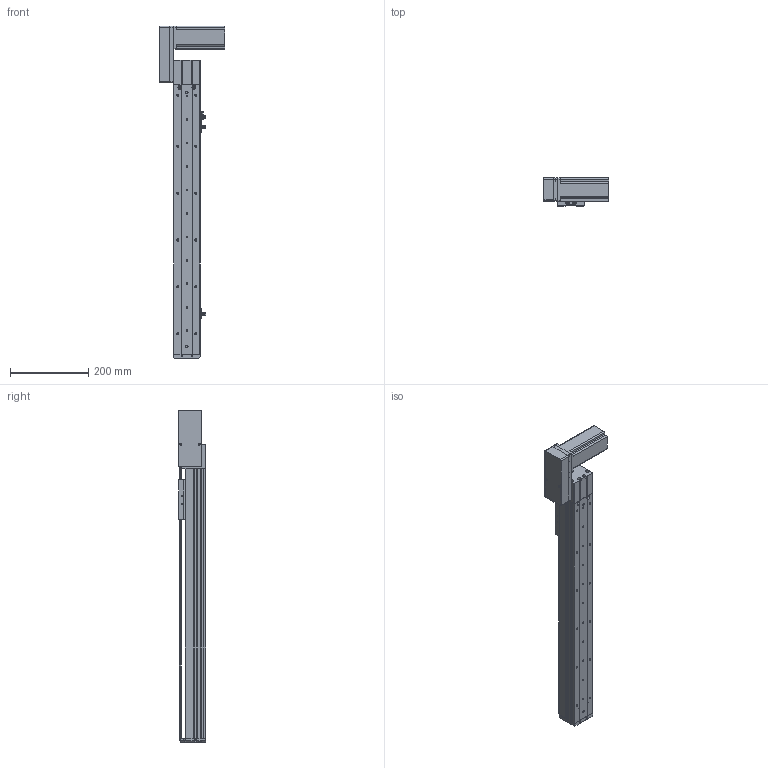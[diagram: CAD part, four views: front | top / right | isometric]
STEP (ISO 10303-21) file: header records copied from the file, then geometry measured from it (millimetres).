
FILE_DESCRIPTION (( 'STEP AP214' ), '1' );
FILE_NAME ('KSD68BS-S500-MRB-CM.STEP', '2019-10-19T09:37:01', ( '微软用户' ), ( '微软中国' ), 'SwSTEP 2.0', 'SolidWorks 2014', '' );
FILE_SCHEMA (( 'AUTOMOTIVE_DESIGN' ));
Length unit declared in the file: millimetre
Products named in the file (11): 68单导轨同步带半封闭端板; KSD68BS 500俴最裔啣圉猾敕; 覜茼え68遵圉猾敕; KSD68BS半封闭同步带传动导轨座; U倰嫖萇EEㄜSX672; 台达ECMA－C20604AS伺服电机（400W); KSD68BS 500俴最菁啣圉猾敕; KSD68BS-S500-MRB-CM; 悵誘欶奻狟殏; 68宽马达安装板连板上折同步带; 68宽单导轨半封闭同步带主动轮座右
Assembly tree (12 placements, depth 2):
  KSD68BS-S500-MRB-CM
    KSD68BS 500俴最菁啣圉猾敕
    台达ECMA－C20604AS伺服电机（400W)
    U倰嫖萇EEㄜSX672  x3
    KSD68BS半封闭同步带传动导轨座
    覜茼え68遵圉猾敕
    KSD68BS 500俴最裔啣圉猾敕
    68单导轨同步带半封闭端板
    68宽单导轨半封闭同步带主动轮座右
    68宽马达安装板连板上折同步带
    悵誘欶奻狟殏
Bounding box: 167.2 x 70.5 x 849.5 mm (x, y, z)
Volume: 1740080.4 mm3; surface area: 567233.2 mm2
Topology: 13 solids, 13 shells, 1294 faces, 3674 edges, 2386 vertices
Faces by surface type: cylinder 612, plane 599, cone 83
Entity records: 45401 total; most frequent: CARTESIAN_POINT 8362, DIRECTION 6144, ORIENTED_EDGE 6100, EDGE_CURVE 3050, AXIS2_PLACEMENT_3D 2208, VERTEX_POINT 2010, VECTOR 1728, LINE 1728
